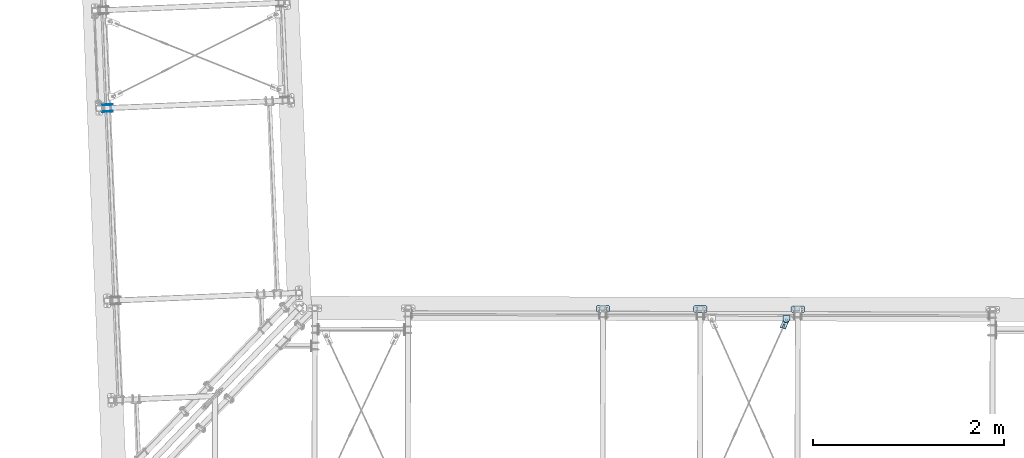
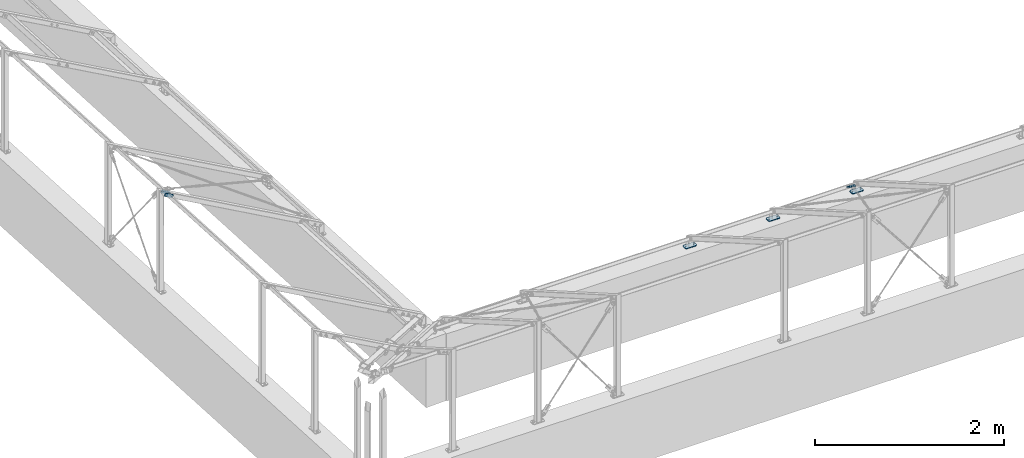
# One storey, part 36 of 288: 7 plates, 38 openings.
"""IFC2X3 building model written with IfcOpenShell, lengths in millimetres."""

from ifc_helpers import new_model, entity, si_unit, converted_unit, point, frame, frame_2d, origin, origin_with_axes, origin_2d_with_axis, place, context, project, spatial, polyline, circle_curve, line_curve, trimmed, segment, composite_curve, circle, outline, extrude, material, layer, layer_set, element, save


model = new_model("IFC2X3")

# Units and contexts
model_context = context("Model", 3, precision=1e-09, world=origin_with_axes())
ifc_project = project(units=[si_unit("LENGTHUNIT", "METRE", prefix="MILLI"), si_unit("AREAUNIT", "SQUARE_METRE"), si_unit("VOLUMEUNIT", "CUBIC_METRE"), converted_unit("PLANEANGLEUNIT", "DEGREE", entity("IfcPlaneAngleMeasure", 0.01745329), si_unit("PLANEANGLEUNIT", "RADIAN"), dimensions=[0, 0, 0, 0, 0, 0, 0])], contexts=[model_context])

# Site, building, storey
site_placement = place(None, origin_with_axes())
site = spatial("IfcSite", under=ifc_project, at=site_placement, Name="Remont ?wietlik?w nad MC w NCPP w Opolu", CompositionType="ELEMENT")
building_placement = place(site_placement, origin_with_axes())
building = spatial("IfcBuilding", under=site, at=building_placement, Name="Konstrukcja 1", CompositionType="ELEMENT")
storey_placement = place(building_placement, origin_with_axes())
storey = spatial("IfcBuildingStorey", under=building, at=storey_placement, Name="Default Storey", CompositionType="ELEMENT", Elevation=0.0)

# Plate, openings
ifc_material = material(Name="S235")
ifc_layer_1 = layer(ifc_material, 8.0)
ifc_layer_set_1 = layer_set([ifc_layer_1], Name="S235")
plate_1_placement = place(None, frame((-267.392016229, 4001.536621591, 1232.680042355), z_axis=(-0.041662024, 0.999131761, 1.7472e-05), x_axis=(0.499566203, 0.020815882, 0.866025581)))
plate_1 = element("IfcPlate", 1, at=plate_1_placement, inside=storey, material=ifc_layer_set_1, Name="-", ObjectType="-", context=model_context, shape_type="SweptSolid", body=[
    extrude(outline(polyline([(0.0, 0.0), (40.0, 0.0), (40.0, 120.0), (0.0, 120.0), (0.0, 0.0)])), origin_with_axes(), (0.0, 0.0, 1.0), 8.0),
])
opening_1_placement = place(plate_1_placement, frame((0.0, 0.0, -0.01), z_axis=(0.0, 0.0, 1.0), x_axis=(1.0, 0.0, 0.0)))
element("IfcOpeningElement", 2, at=opening_1_placement, cuts=plate_1, ObjectType="Opening", context=model_context, shape_type="SweptSolid", body=[
    extrude(outline(composite_curve([segment(trimmed(line_curve((40.0, 0.0), (0.0, 1.0), 10.0), [point((40.0, 0.0))], [point((40.0, 10.0))], True, "CARTESIAN"), True, "CONTINUOUS"), segment(trimmed(circle_curve(frame_2d((30.0, 10.0), x_axis=(-1.0, 0.0)), 10.0), [point((40.0, 10.0))], [point((30.0, 0.0))], False, "CARTESIAN"), True, "CONTINUOUS"), segment(trimmed(line_curve((30.0, 0.0), (1.0, 0.0), 10.0), [point((30.0, 0.0))], [point((40.0, 0.0))], True, "CARTESIAN"), True, "CONTINUOUS")], self_intersect=False)), origin(), (0.0, 0.0, 1.0), 8.02),
])
opening_2_placement = place(plate_1_placement, frame((0.0, 0.0, -0.01), z_axis=(0.0, 0.0, 1.0), x_axis=(1.0, 0.0, 0.0)))
element("IfcOpeningElement", 3, at=opening_2_placement, cuts=plate_1, ObjectType="Opening", context=model_context, shape_type="SweptSolid", body=[
    extrude(outline(composite_curve([segment(trimmed(line_curve((0.0, 0.0), (1.0, 0.0), 10.0), [point((0.0, 0.0))], [point((10.0, 0.0))], True, "CARTESIAN"), True, "CONTINUOUS"), segment(trimmed(circle_curve(frame_2d((10.0, 10.0), x_axis=(-1.0, 0.0)), 10.0), [point((10.0, 0.0))], [point((0.0, 10.0))], False, "CARTESIAN"), True, "CONTINUOUS"), segment(trimmed(line_curve((0.0, 10.0), (0.0, -1.0), 10.0), [point((0.0, 10.0))], [point((0.0, 0.0))], True, "CARTESIAN"), True, "CONTINUOUS")], self_intersect=False)), origin(), (0.0, 0.0, 1.0), 8.02),
])
opening_3_placement = place(plate_1_placement, frame((0.0, 0.0, -0.01), z_axis=(0.0, 0.0, 1.0), x_axis=(1.0, 0.0, 0.0)))
element("IfcOpeningElement", 4, at=opening_3_placement, cuts=plate_1, ObjectType="Opening", context=model_context, shape_type="SweptSolid", body=[
    extrude(outline(composite_curve([segment(trimmed(line_curve((40.0, 120.0), (-1.0, 0.0), 10.0), [point((40.0, 120.0))], [point((30.0, 120.0))], True, "CARTESIAN"), True, "CONTINUOUS"), segment(trimmed(circle_curve(frame_2d((30.0, 110.0), x_axis=(-1.0, 0.0)), 10.0), [point((30.0, 120.0))], [point((40.0, 110.0))], False, "CARTESIAN"), True, "CONTINUOUS"), segment(trimmed(line_curve((40.0, 110.0), (0.0, 1.0), 10.0), [point((40.0, 110.0))], [point((40.0, 120.0))], True, "CARTESIAN"), True, "CONTINUOUS")], self_intersect=False)), origin(), (0.0, 0.0, 1.0), 8.02),
])
opening_4_placement = place(plate_1_placement, frame((0.0, 0.0, -0.01), z_axis=(0.0, 0.0, 1.0), x_axis=(1.0, 0.0, 0.0)))
element("IfcOpeningElement", 5, at=opening_4_placement, cuts=plate_1, ObjectType="Opening", context=model_context, shape_type="SweptSolid", body=[
    extrude(outline(composite_curve([segment(trimmed(line_curve((0.0, 120.0), (0.0, -1.0), 10.0), [point((0.0, 120.0))], [point((0.0, 110.0))], True, "CARTESIAN"), True, "CONTINUOUS"), segment(trimmed(circle_curve(frame_2d((10.0, 110.0), x_axis=(-1.0, 0.0)), 10.0), [point((0.0, 110.0))], [point((10.0, 120.0))], False, "CARTESIAN"), True, "CONTINUOUS"), segment(trimmed(line_curve((10.0, 120.0), (-1.0, 0.0), 10.0), [point((10.0, 120.0))], [point((0.0, 120.0))], True, "CARTESIAN"), True, "CONTINUOUS")], self_intersect=False)), origin(), (0.0, 0.0, 1.0), 8.02),
])
opening_5_placement = place(plate_1_placement, frame((12.999, 20.0, 8.5), z_axis=(0.0, 0.0, 1.0), x_axis=(1.0, 0.0, 0.0)))
element("IfcOpeningElement", 6, at=opening_5_placement, cuts=plate_1, ObjectType="Opening", context=model_context, shape_type="SweptSolid", body=[
    extrude(circle(Radius=7.001, at=frame_2d((7.001, 0.0), x_axis=(1.0, 0.0))), origin(), (0.0, 0.0, -1.0), 9.0),
])
opening_6_placement = place(plate_1_placement, frame((12.999, 100.0, 8.5), z_axis=(0.0, 0.0, 1.0), x_axis=(1.0, 0.0, 0.0)))
element("IfcOpeningElement", 7, at=opening_6_placement, cuts=plate_1, ObjectType="Opening", context=model_context, shape_type="SweptSolid", body=[
    extrude(circle(Radius=7.001, at=frame_2d((7.001, 0.0), x_axis=(1.0, 0.0))), origin(), (0.0, 0.0, -1.0), 9.0),
])

plate_2_placement = place(None, frame((-264.475674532, 3931.597398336, 1232.67881934), z_axis=(-0.041662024, 0.999131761, 1.7472e-05), x_axis=(0.499566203, 0.020815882, 0.866025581)))
plate_2 = element("IfcPlate", 8, at=plate_2_placement, inside=storey, material=ifc_layer_set_1, Name="-", ObjectType="-", context=model_context, shape_type="SweptSolid", body=[
    extrude(outline(polyline([(0.0, 0.0), (40.0, 0.0), (40.0, 120.0), (0.0, 120.0), (0.0, 0.0)])), origin_with_axes(), (0.0, 0.0, 1.0), 8.0),
])
opening_7_placement = place(plate_2_placement, frame((0.0, 0.0, -0.01), z_axis=(0.0, 0.0, 1.0), x_axis=(1.0, 0.0, 0.0)))
element("IfcOpeningElement", 9, at=opening_7_placement, cuts=plate_2, ObjectType="Opening", context=model_context, shape_type="SweptSolid", body=[
    extrude(outline(composite_curve([segment(trimmed(line_curve((40.0, 0.0), (0.0, 1.0), 10.0), [point((40.0, 0.0))], [point((40.0, 10.0))], True, "CARTESIAN"), True, "CONTINUOUS"), segment(trimmed(circle_curve(frame_2d((30.0, 10.0), x_axis=(-1.0, 0.0)), 10.0), [point((40.0, 10.0))], [point((30.0, 0.0))], False, "CARTESIAN"), True, "CONTINUOUS"), segment(trimmed(line_curve((30.0, 0.0), (1.0, 0.0), 10.0), [point((30.0, 0.0))], [point((40.0, 0.0))], True, "CARTESIAN"), True, "CONTINUOUS")], self_intersect=False)), origin(), (0.0, 0.0, 1.0), 8.02),
])
opening_8_placement = place(plate_2_placement, frame((0.0, 0.0, -0.01), z_axis=(0.0, 0.0, 1.0), x_axis=(1.0, 0.0, 0.0)))
element("IfcOpeningElement", 10, at=opening_8_placement, cuts=plate_2, ObjectType="Opening", context=model_context, shape_type="SweptSolid", body=[
    extrude(outline(composite_curve([segment(trimmed(line_curve((0.0, 0.0), (1.0, 0.0), 10.0), [point((0.0, 0.0))], [point((10.0, 0.0))], True, "CARTESIAN"), True, "CONTINUOUS"), segment(trimmed(circle_curve(frame_2d((10.0, 10.0), x_axis=(-1.0, 0.0)), 10.0), [point((10.0, 0.0))], [point((0.0, 10.0))], False, "CARTESIAN"), True, "CONTINUOUS"), segment(trimmed(line_curve((0.0, 10.0), (0.0, -1.0), 10.0), [point((0.0, 10.0))], [point((0.0, 0.0))], True, "CARTESIAN"), True, "CONTINUOUS")], self_intersect=False)), origin(), (0.0, 0.0, 1.0), 8.02),
])
opening_9_placement = place(plate_2_placement, frame((0.0, 0.0, -0.01), z_axis=(0.0, 0.0, 1.0), x_axis=(1.0, 0.0, 0.0)))
element("IfcOpeningElement", 11, at=opening_9_placement, cuts=plate_2, ObjectType="Opening", context=model_context, shape_type="SweptSolid", body=[
    extrude(outline(composite_curve([segment(trimmed(line_curve((40.0, 120.0), (-1.0, 0.0), 10.0), [point((40.0, 120.0))], [point((30.0, 120.0))], True, "CARTESIAN"), True, "CONTINUOUS"), segment(trimmed(circle_curve(frame_2d((30.0, 110.0), x_axis=(-1.0, 0.0)), 10.0), [point((30.0, 120.0))], [point((40.0, 110.0))], False, "CARTESIAN"), True, "CONTINUOUS"), segment(trimmed(line_curve((40.0, 110.0), (0.0, 1.0), 10.0), [point((40.0, 110.0))], [point((40.0, 120.0))], True, "CARTESIAN"), True, "CONTINUOUS")], self_intersect=False)), origin(), (0.0, 0.0, 1.0), 8.02),
])
opening_10_placement = place(plate_2_placement, frame((0.0, 0.0, -0.01), z_axis=(0.0, 0.0, 1.0), x_axis=(1.0, 0.0, 0.0)))
element("IfcOpeningElement", 12, at=opening_10_placement, cuts=plate_2, ObjectType="Opening", context=model_context, shape_type="SweptSolid", body=[
    extrude(outline(composite_curve([segment(trimmed(line_curve((0.0, 120.0), (0.0, -1.0), 10.0), [point((0.0, 120.0))], [point((0.0, 110.0))], True, "CARTESIAN"), True, "CONTINUOUS"), segment(trimmed(circle_curve(frame_2d((10.0, 110.0), x_axis=(-1.0, 0.0)), 10.0), [point((0.0, 110.0))], [point((10.0, 120.0))], False, "CARTESIAN"), True, "CONTINUOUS"), segment(trimmed(line_curve((10.0, 120.0), (-1.0, 0.0), 10.0), [point((10.0, 120.0))], [point((0.0, 120.0))], True, "CARTESIAN"), True, "CONTINUOUS")], self_intersect=False)), origin(), (0.0, 0.0, 1.0), 8.02),
])
opening_11_placement = place(plate_2_placement, frame((12.999, 20.0, 8.5), z_axis=(0.0, 0.0, 1.0), x_axis=(1.0, 0.0, 0.0)))
element("IfcOpeningElement", 13, at=opening_11_placement, cuts=plate_2, ObjectType="Opening", context=model_context, shape_type="SweptSolid", body=[
    extrude(circle(Radius=7.001, at=frame_2d((7.001, 0.0), x_axis=(1.0, 0.0))), origin(), (0.0, 0.0, -1.0), 9.0),
])
opening_12_placement = place(plate_2_placement, frame((12.999, 100.0, 8.5), z_axis=(0.0, 0.0, 1.0), x_axis=(1.0, 0.0, 0.0)))
element("IfcOpeningElement", 14, at=opening_12_placement, cuts=plate_2, ObjectType="Opening", context=model_context, shape_type="SweptSolid", body=[
    extrude(circle(Radius=7.001, at=frame_2d((7.001, 0.0), x_axis=(1.0, 0.0))), origin(), (0.0, 0.0, -1.0), 9.0),
])

ifc_layer_2 = layer(ifc_material, 10.0)
ifc_layer_set_2 = layer_set([ifc_layer_2], Name="S235")
plate_3_placement = place(None, frame((7090.900781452, 1903.774662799, 10.000000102), z_axis=(0.0, 0.0, -1.0), x_axis=(-0.002261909, -0.999997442, 0.0)))
plate_3 = element("IfcPlate", 15, at=plate_3_placement, inside=storey, material=ifc_layer_set_2, Name="Baseplate", ObjectType="Baseplate", context=model_context, shape_type="SweptSolid", body=[
    extrude(outline(polyline([(0.0, 0.0), (70.0, 0.0), (70.0, 140.0), (0.0, 140.0), (0.0, 0.0)])), origin_with_axes(), (0.0, 0.0, 1.0), 10.0),
])
opening_13_placement = place(plate_3_placement, frame((0.0, 0.0, -0.01), z_axis=(0.0, 0.0, 1.0), x_axis=(1.0, 0.0, 0.0)))
element("IfcOpeningElement", 16, at=opening_13_placement, cuts=plate_3, ObjectType="Opening", context=model_context, shape_type="SweptSolid", body=[
    extrude(outline(composite_curve([segment(trimmed(line_curve((0.0, 140.0), (0.0, -1.0), 10.0), [point((0.0, 140.0))], [point((0.0, 130.0))], True, "CARTESIAN"), True, "CONTINUOUS"), segment(trimmed(circle_curve(frame_2d((10.0, 130.0), x_axis=(-1.0, 0.0)), 10.0), [point((0.0, 130.0))], [point((10.0, 140.0))], False, "CARTESIAN"), True, "CONTINUOUS"), segment(trimmed(line_curve((10.0, 140.0), (-1.0, 0.0), 10.0), [point((10.0, 140.0))], [point((0.0, 140.0))], True, "CARTESIAN"), True, "CONTINUOUS")], self_intersect=False)), origin(), (0.0, 0.0, 1.0), 10.02),
])
opening_14_placement = place(plate_3_placement, frame((0.0, 0.0, -0.01), z_axis=(0.0, 0.0, 1.0), x_axis=(1.0, 0.0, 0.0)))
element("IfcOpeningElement", 17, at=opening_14_placement, cuts=plate_3, ObjectType="Opening", context=model_context, shape_type="SweptSolid", body=[
    extrude(outline(composite_curve([segment(trimmed(line_curve((70.0, 140.0), (-1.0, 0.0), 10.0), [point((70.0, 140.0))], [point((60.0, 140.0))], True, "CARTESIAN"), True, "CONTINUOUS"), segment(trimmed(circle_curve(frame_2d((60.0, 130.0), x_axis=(-1.0, 0.0)), 10.0), [point((60.0, 140.0))], [point((70.0, 130.0))], False, "CARTESIAN"), True, "CONTINUOUS"), segment(trimmed(line_curve((70.0, 130.0), (0.0, 1.0), 10.0), [point((70.0, 130.0))], [point((70.0, 140.0))], True, "CARTESIAN"), True, "CONTINUOUS")], self_intersect=False)), origin(), (0.0, 0.0, 1.0), 10.02),
])
opening_15_placement = place(plate_3_placement, frame((0.0, 0.0, -0.01), z_axis=(0.0, 0.0, 1.0), x_axis=(1.0, 0.0, 0.0)))
element("IfcOpeningElement", 18, at=opening_15_placement, cuts=plate_3, ObjectType="Opening", context=model_context, shape_type="SweptSolid", body=[
    extrude(outline(composite_curve([segment(trimmed(line_curve((0.0, 0.0), (1.0, 0.0), 10.0), [point((0.0, 0.0))], [point((10.0, 0.0))], True, "CARTESIAN"), True, "CONTINUOUS"), segment(trimmed(circle_curve(frame_2d((10.0, 10.0), x_axis=(-1.0, 0.0)), 10.0), [point((10.0, 0.0))], [point((0.0, 10.0))], False, "CARTESIAN"), True, "CONTINUOUS"), segment(trimmed(line_curve((0.0, 10.0), (0.0, -1.0), 10.0), [point((0.0, 10.0))], [point((0.0, 0.0))], True, "CARTESIAN"), True, "CONTINUOUS")], self_intersect=False)), origin(), (0.0, 0.0, 1.0), 10.02),
])
opening_16_placement = place(plate_3_placement, frame((0.0, 0.0, -0.01), z_axis=(0.0, 0.0, 1.0), x_axis=(1.0, 0.0, 0.0)))
element("IfcOpeningElement", 19, at=opening_16_placement, cuts=plate_3, ObjectType="Opening", context=model_context, shape_type="SweptSolid", body=[
    extrude(outline(composite_curve([segment(trimmed(line_curve((70.0, 0.0), (0.0, 1.0), 10.0), [point((70.0, 0.0))], [point((70.0, 10.0))], True, "CARTESIAN"), True, "CONTINUOUS"), segment(trimmed(circle_curve(frame_2d((60.0, 10.0), x_axis=(-1.0, 0.0)), 10.0), [point((70.0, 10.0))], [point((60.0, 0.0))], False, "CARTESIAN"), True, "CONTINUOUS"), segment(trimmed(line_curve((60.0, 0.0), (1.0, 0.0), 10.0), [point((60.0, 0.0))], [point((70.0, 0.0))], True, "CARTESIAN"), True, "CONTINUOUS")], self_intersect=False)), origin(), (0.0, 0.0, 1.0), 10.02),
])
opening_17_placement = place(plate_3_placement, frame((35.0, 20.0, 10.5), z_axis=(0.0, 0.0, -1.0), x_axis=(1.0, 0.0, 0.0)))
element("IfcOpeningElement", 20, at=opening_17_placement, cuts=plate_3, ObjectType="Opening", context=model_context, shape_type="SweptSolid", body=[
    extrude(circle(Radius=6.001, at=origin_2d_with_axis()), origin(), (0.0, 0.0, 1.0), 11.0),
])
opening_18_placement = place(plate_3_placement, frame((35.0, 120.0, 10.5), z_axis=(0.0, 0.0, -1.0), x_axis=(1.0, 0.0, 0.0)))
element("IfcOpeningElement", 21, at=opening_18_placement, cuts=plate_3, ObjectType="Opening", context=model_context, shape_type="SweptSolid", body=[
    extrude(circle(Radius=6.001, at=origin_2d_with_axis()), origin(), (0.0, 0.0, 1.0), 11.0),
])

plate_4_placement = place(None, frame((6071.446232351, 1906.072934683, 10.000000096), z_axis=(0.0, 0.0, -1.0), x_axis=(-0.002261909, -0.999997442, 0.0)))
plate_4 = element("IfcPlate", 22, at=plate_4_placement, inside=storey, material=ifc_layer_set_2, Name="Baseplate", ObjectType="Baseplate", context=model_context, shape_type="SweptSolid", body=[
    extrude(outline(polyline([(0.0, 0.0), (70.0, 0.0), (70.0, 140.0), (0.0, 140.0), (0.0, 0.0)])), origin_with_axes(), (0.0, 0.0, 1.0), 10.0),
])
opening_19_placement = place(plate_4_placement, frame((0.0, 0.0, -0.01), z_axis=(0.0, 0.0, 1.0), x_axis=(1.0, 0.0, 0.0)))
element("IfcOpeningElement", 23, at=opening_19_placement, cuts=plate_4, ObjectType="Opening", context=model_context, shape_type="SweptSolid", body=[
    extrude(outline(composite_curve([segment(trimmed(line_curve((0.0, 140.0), (0.0, -1.0), 10.0), [point((0.0, 140.0))], [point((0.0, 130.0))], True, "CARTESIAN"), True, "CONTINUOUS"), segment(trimmed(circle_curve(frame_2d((10.0, 130.0), x_axis=(-1.0, 0.0)), 10.0), [point((0.0, 130.0))], [point((10.0, 140.0))], False, "CARTESIAN"), True, "CONTINUOUS"), segment(trimmed(line_curve((10.0, 140.0), (-1.0, 0.0), 10.0), [point((10.0, 140.0))], [point((0.0, 140.0))], True, "CARTESIAN"), True, "CONTINUOUS")], self_intersect=False)), origin(), (0.0, 0.0, 1.0), 10.02),
])
opening_20_placement = place(plate_4_placement, frame((0.0, 0.0, -0.01), z_axis=(0.0, 0.0, 1.0), x_axis=(1.0, 0.0, 0.0)))
element("IfcOpeningElement", 24, at=opening_20_placement, cuts=plate_4, ObjectType="Opening", context=model_context, shape_type="SweptSolid", body=[
    extrude(outline(composite_curve([segment(trimmed(line_curve((70.0, 140.0), (-1.0, 0.0), 10.0), [point((70.0, 140.0))], [point((60.0, 140.0))], True, "CARTESIAN"), True, "CONTINUOUS"), segment(trimmed(circle_curve(frame_2d((60.0, 130.0), x_axis=(-1.0, 0.0)), 10.0), [point((60.0, 140.0))], [point((70.0, 130.0))], False, "CARTESIAN"), True, "CONTINUOUS"), segment(trimmed(line_curve((70.0, 130.0), (0.0, 1.0), 10.0), [point((70.0, 130.0))], [point((70.0, 140.0))], True, "CARTESIAN"), True, "CONTINUOUS")], self_intersect=False)), origin(), (0.0, 0.0, 1.0), 10.02),
])
opening_21_placement = place(plate_4_placement, frame((0.0, 0.0, -0.01), z_axis=(0.0, 0.0, 1.0), x_axis=(1.0, 0.0, 0.0)))
element("IfcOpeningElement", 25, at=opening_21_placement, cuts=plate_4, ObjectType="Opening", context=model_context, shape_type="SweptSolid", body=[
    extrude(outline(composite_curve([segment(trimmed(line_curve((0.0, 0.0), (1.0, 0.0), 10.0), [point((0.0, 0.0))], [point((10.0, 0.0))], True, "CARTESIAN"), True, "CONTINUOUS"), segment(trimmed(circle_curve(frame_2d((10.0, 10.0), x_axis=(-1.0, 0.0)), 10.0), [point((10.0, 0.0))], [point((0.0, 10.0))], False, "CARTESIAN"), True, "CONTINUOUS"), segment(trimmed(line_curve((0.0, 10.0), (0.0, -1.0), 10.0), [point((0.0, 10.0))], [point((0.0, 0.0))], True, "CARTESIAN"), True, "CONTINUOUS")], self_intersect=False)), origin(), (0.0, 0.0, 1.0), 10.02),
])
opening_22_placement = place(plate_4_placement, frame((0.0, 0.0, -0.01), z_axis=(0.0, 0.0, 1.0), x_axis=(1.0, 0.0, 0.0)))
element("IfcOpeningElement", 26, at=opening_22_placement, cuts=plate_4, ObjectType="Opening", context=model_context, shape_type="SweptSolid", body=[
    extrude(outline(composite_curve([segment(trimmed(line_curve((70.0, 0.0), (0.0, 1.0), 10.0), [point((70.0, 0.0))], [point((70.0, 10.0))], True, "CARTESIAN"), True, "CONTINUOUS"), segment(trimmed(circle_curve(frame_2d((60.0, 10.0), x_axis=(-1.0, 0.0)), 10.0), [point((70.0, 10.0))], [point((60.0, 0.0))], False, "CARTESIAN"), True, "CONTINUOUS"), segment(trimmed(line_curve((60.0, 0.0), (1.0, 0.0), 10.0), [point((60.0, 0.0))], [point((70.0, 0.0))], True, "CARTESIAN"), True, "CONTINUOUS")], self_intersect=False)), origin(), (0.0, 0.0, 1.0), 10.02),
])
opening_23_placement = place(plate_4_placement, frame((35.0, 120.0, 10.5), z_axis=(0.0, 0.0, -1.0), x_axis=(1.0, 0.0, 0.0)))
element("IfcOpeningElement", 27, at=opening_23_placement, cuts=plate_4, ObjectType="Opening", context=model_context, shape_type="SweptSolid", body=[
    extrude(circle(Radius=6.001, at=origin_2d_with_axis()), origin(), (0.0, 0.0, 1.0), 11.0),
])
opening_24_placement = place(plate_4_placement, frame((35.0, 20.0, 10.5), z_axis=(0.0, 0.0, -1.0), x_axis=(1.0, 0.0, 0.0)))
element("IfcOpeningElement", 28, at=opening_24_placement, cuts=plate_4, ObjectType="Opening", context=model_context, shape_type="SweptSolid", body=[
    extrude(circle(Radius=6.001, at=origin_2d_with_axis()), origin(), (0.0, 0.0, 1.0), 11.0),
])

plate_5_placement = place(None, frame((4911.832847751, 1838.703350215, 10.000000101), z_axis=(0.0, 0.0, -1.0), x_axis=(0.002261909, 0.999997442, 0.0)))
plate_5 = element("IfcPlate", 29, at=plate_5_placement, inside=storey, material=ifc_layer_set_2, Name="Baseplate", ObjectType="Baseplate", context=model_context, shape_type="SweptSolid", body=[
    extrude(outline(polyline([(0.0, 0.0), (70.0, 0.0), (70.0, 140.0), (0.0, 140.0), (0.0, 0.0)])), origin_with_axes(), (0.0, 0.0, 1.0), 10.0),
])
opening_25_placement = place(plate_5_placement, frame((0.0, 0.0, -0.01), z_axis=(0.0, 0.0, 1.0), x_axis=(1.0, 0.0, 0.0)))
element("IfcOpeningElement", 30, at=opening_25_placement, cuts=plate_5, ObjectType="Opening", context=model_context, shape_type="SweptSolid", body=[
    extrude(outline(composite_curve([segment(trimmed(line_curve((0.0, 140.0), (0.0, -1.0), 10.0), [point((0.0, 140.0))], [point((0.0, 130.0))], True, "CARTESIAN"), True, "CONTINUOUS"), segment(trimmed(circle_curve(frame_2d((10.0, 130.0), x_axis=(-1.0, 0.0)), 10.0), [point((0.0, 130.0))], [point((10.0, 140.0))], False, "CARTESIAN"), True, "CONTINUOUS"), segment(trimmed(line_curve((10.0, 140.0), (-1.0, 0.0), 10.0), [point((10.0, 140.0))], [point((0.0, 140.0))], True, "CARTESIAN"), True, "CONTINUOUS")], self_intersect=False)), origin(), (0.0, 0.0, 1.0), 10.02),
])
opening_26_placement = place(plate_5_placement, frame((0.0, 0.0, -0.01), z_axis=(0.0, 0.0, 1.0), x_axis=(1.0, 0.0, 0.0)))
element("IfcOpeningElement", 31, at=opening_26_placement, cuts=plate_5, ObjectType="Opening", context=model_context, shape_type="SweptSolid", body=[
    extrude(outline(composite_curve([segment(trimmed(line_curve((70.0, 140.0), (-1.0, 0.0), 10.0), [point((70.0, 140.0))], [point((60.0, 140.0))], True, "CARTESIAN"), True, "CONTINUOUS"), segment(trimmed(circle_curve(frame_2d((60.0, 130.0), x_axis=(-1.0, 0.0)), 10.0), [point((60.0, 140.0))], [point((70.0, 130.0))], False, "CARTESIAN"), True, "CONTINUOUS"), segment(trimmed(line_curve((70.0, 130.0), (0.0, 1.0), 10.0), [point((70.0, 130.0))], [point((70.0, 140.0))], True, "CARTESIAN"), True, "CONTINUOUS")], self_intersect=False)), origin(), (0.0, 0.0, 1.0), 10.02),
])
opening_27_placement = place(plate_5_placement, frame((0.0, 0.0, -0.01), z_axis=(0.0, 0.0, 1.0), x_axis=(1.0, 0.0, 0.0)))
element("IfcOpeningElement", 32, at=opening_27_placement, cuts=plate_5, ObjectType="Opening", context=model_context, shape_type="SweptSolid", body=[
    extrude(outline(composite_curve([segment(trimmed(line_curve((0.0, 0.0), (1.0, 0.0), 10.0), [point((0.0, 0.0))], [point((10.0, 0.0))], True, "CARTESIAN"), True, "CONTINUOUS"), segment(trimmed(circle_curve(frame_2d((10.0, 10.0), x_axis=(-1.0, 0.0)), 10.0), [point((10.0, 0.0))], [point((0.0, 10.0))], False, "CARTESIAN"), True, "CONTINUOUS"), segment(trimmed(line_curve((0.0, 10.0), (0.0, -1.0), 10.0), [point((0.0, 10.0))], [point((0.0, 0.0))], True, "CARTESIAN"), True, "CONTINUOUS")], self_intersect=False)), origin(), (0.0, 0.0, 1.0), 10.02),
])
opening_28_placement = place(plate_5_placement, frame((0.0, 0.0, -0.01), z_axis=(0.0, 0.0, 1.0), x_axis=(1.0, 0.0, 0.0)))
element("IfcOpeningElement", 33, at=opening_28_placement, cuts=plate_5, ObjectType="Opening", context=model_context, shape_type="SweptSolid", body=[
    extrude(outline(composite_curve([segment(trimmed(line_curve((70.0, 0.0), (0.0, 1.0), 10.0), [point((70.0, 0.0))], [point((70.0, 10.0))], True, "CARTESIAN"), True, "CONTINUOUS"), segment(trimmed(circle_curve(frame_2d((60.0, 10.0), x_axis=(-1.0, 0.0)), 10.0), [point((70.0, 10.0))], [point((60.0, 0.0))], False, "CARTESIAN"), True, "CONTINUOUS"), segment(trimmed(line_curve((60.0, 0.0), (1.0, 0.0), 10.0), [point((60.0, 0.0))], [point((70.0, 0.0))], True, "CARTESIAN"), True, "CONTINUOUS")], self_intersect=False)), origin(), (0.0, 0.0, 1.0), 10.02),
])
opening_29_placement = place(plate_5_placement, frame((35.0, 120.0, 10.5), z_axis=(0.0, 0.0, -1.0), x_axis=(1.0, 0.0, 0.0)))
element("IfcOpeningElement", 34, at=opening_29_placement, cuts=plate_5, ObjectType="Opening", context=model_context, shape_type="SweptSolid", body=[
    extrude(circle(Radius=6.001, at=origin_2d_with_axis()), origin(), (0.0, 0.0, 1.0), 11.0),
])
opening_30_placement = place(plate_5_placement, frame((35.0, 20.0, 10.5), z_axis=(0.0, 0.0, -1.0), x_axis=(1.0, 0.0, 0.0)))
element("IfcOpeningElement", 35, at=opening_30_placement, cuts=plate_5, ObjectType="Opening", context=model_context, shape_type="SweptSolid", body=[
    extrude(circle(Radius=6.001, at=origin_2d_with_axis()), origin(), (0.0, 0.0, 1.0), 11.0),
])

plate_6_placement = place(None, frame((6889.905817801, 1661.619714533, 243.386541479), z_axis=(-0.001127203, -0.499998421, -0.866025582), x_axis=(-0.931267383, 0.316048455, -0.181257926)))
plate_6 = element("IfcPlate", 36, at=plate_6_placement, inside=storey, material=ifc_layer_set_1, Name="Tab_Plate#2", ObjectType="Tab_Plate#2", context=model_context, shape_type="SweptSolid", body=[
    extrude(outline(polyline([(0.0, 0.0), (60.0, 0.0), (60.0, 140.0), (0.0, 140.0), (0.0, 0.0)])), origin_with_axes(), (0.0, 0.0, 1.0), 8.0),
])
opening_31_placement = place(plate_6_placement, frame((0.0, 0.0, -0.01), z_axis=(0.0, 0.0, 1.0), x_axis=(1.0, 0.0, 0.0)))
element("IfcOpeningElement", 37, at=opening_31_placement, cuts=plate_6, ObjectType="Opening", context=model_context, shape_type="SweptSolid", body=[
    extrude(outline(composite_curve([segment(trimmed(line_curve((60.0, 140.0), (-1.0, 0.0), 30.0), [point((60.0, 140.0))], [point((30.0, 140.0))], True, "CARTESIAN"), True, "CONTINUOUS"), segment(trimmed(circle_curve(frame_2d((30.0, 110.0), x_axis=(-1.0, 0.0)), 30.0), [point((30.0, 140.0))], [point((60.0, 110.0))], False, "CARTESIAN"), True, "CONTINUOUS"), segment(trimmed(line_curve((60.0, 110.0), (0.0, 1.0), 30.0), [point((60.0, 110.0))], [point((60.0, 140.0))], True, "CARTESIAN"), True, "CONTINUOUS")], self_intersect=False)), origin(), (0.0, 0.0, 1.0), 8.02),
])
opening_32_placement = place(plate_6_placement, frame((0.0, 0.0, -0.01), z_axis=(0.0, 0.0, 1.0), x_axis=(1.0, 0.0, 0.0)))
element("IfcOpeningElement", 38, at=opening_32_placement, cuts=plate_6, ObjectType="Opening", context=model_context, shape_type="SweptSolid", body=[
    extrude(outline(composite_curve([segment(trimmed(line_curve((0.0, 140.0), (0.0, -1.0), 30.0), [point((0.0, 140.0))], [point((0.0, 110.0))], True, "CARTESIAN"), True, "CONTINUOUS"), segment(trimmed(circle_curve(frame_2d((30.0, 110.0), x_axis=(-1.0, 0.0)), 30.0), [point((0.0, 110.0))], [point((30.0, 140.0))], False, "CARTESIAN"), True, "CONTINUOUS"), segment(trimmed(line_curve((30.0, 140.0), (-1.0, 0.0), 30.0), [point((30.0, 140.0))], [point((0.0, 140.0))], True, "CARTESIAN"), True, "CONTINUOUS")], self_intersect=False)), origin(), (0.0, 0.0, 1.0), 8.02),
])
opening_33_placement = place(plate_6_placement, frame((0.0, 0.0, 8.1), z_axis=(0.0, 0.0, -1.0), x_axis=(0.931977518, -0.362516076, 0.0)))
element("IfcOpeningElement", 39, at=opening_33_placement, cuts=plate_6, ObjectType="Opening", context=model_context, shape_type="SweptSolid", body=[
    extrude(outline(polyline([(2.945868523, -55.869292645), (15.995417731, -60.945242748), (34.484462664, -13.412525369), (21.434913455, -8.336575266), (2.945868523, -55.869292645)])), origin(), (0.0, 0.0, 1.0), 8.2),
])
opening_34_placement = place(plate_6_placement, frame((30.0, 110.0, 8.5), z_axis=(0.0, 0.0, -1.0), x_axis=(0.0, -1.0, 0.0)))
element("IfcOpeningElement", 40, at=opening_34_placement, cuts=plate_6, ObjectType="Opening", context=model_context, shape_type="SweptSolid", body=[
    extrude(circle(Radius=9.001, at=origin_2d_with_axis()), origin(), (0.0, 0.0, 1.0), 9.0),
])

plate_7_placement = place(None, frame((6863.158517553, 1737.08641212, 181.375578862), z_axis=(0.001127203, 0.499998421, 0.866025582), x_axis=(0.931267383, -0.316048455, 0.181257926)))
plate_7 = element("IfcPlate", 41, at=plate_7_placement, inside=storey, material=ifc_layer_set_1, Name="Gusset#2", ObjectType="Gusset#2", context=model_context, shape_type="SweptSolid", body=[
    extrude(outline(polyline([(0.0, 0.0), (60.0, 0.0), (60.0, 60.0), (45.922042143, 96.193155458), (-26.464268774, 68.037239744), (0.0, 0.0)])), origin_with_axes(), (0.0, 0.0, 1.0), 8.0),
])
opening_35_placement = place(plate_7_placement, frame((30.0, 30.0, -0.5), z_axis=(0.0, 0.0, 1.0), x_axis=(0.0, -1.0, 0.0)))
element("IfcOpeningElement", 42, at=opening_35_placement, cuts=plate_7, ObjectType="Opening", context=model_context, shape_type="SweptSolid", body=[
    extrude(circle(Radius=9.001, at=origin_2d_with_axis()), origin(), (0.0, 0.0, 1.0), 9.0),
])
opening_36_placement = place(plate_7_placement, frame((0.0, 0.0, -0.01), z_axis=(0.0, 0.0, 1.0), x_axis=(1.0, 0.0, 0.0)))
element("IfcOpeningElement", 43, at=opening_36_placement, cuts=plate_7, ObjectType="Opening", context=model_context, shape_type="SweptSolid", body=[
    extrude(outline(composite_curve([segment(trimmed(line_curve((60.0, 0.0), (0.0, 1.0), 30.0), [point((60.0, 0.0))], [point((60.0, 30.0))], True, "CARTESIAN"), True, "CONTINUOUS"), segment(trimmed(circle_curve(frame_2d((30.0, 30.0), x_axis=(-1.0, 0.0)), 30.0), [point((60.0, 30.0))], [point((30.0, 0.0))], False, "CARTESIAN"), True, "CONTINUOUS"), segment(trimmed(line_curve((30.0, 0.0), (1.0, 0.0), 30.0), [point((30.0, 0.0))], [point((60.0, 0.0))], True, "CARTESIAN"), True, "CONTINUOUS")], self_intersect=False)), origin(), (0.0, 0.0, 1.0), 8.02),
])
opening_37_placement = place(plate_7_placement, frame((0.0, 0.0, -0.01), z_axis=(0.0, 0.0, 1.0), x_axis=(1.0, 0.0, 0.0)))
element("IfcOpeningElement", 44, at=opening_37_placement, cuts=plate_7, ObjectType="Opening", context=model_context, shape_type="SweptSolid", body=[
    extrude(outline(composite_curve([segment(trimmed(line_curve((0.0, 0.0), (1.0, 0.0), 20.520511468), [point((0.0, 0.0))], [point((20.520511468, 0.0))], True, "CARTESIAN"), True, "CONTINUOUS"), segment(trimmed(circle_curve(frame_2d((20.520511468, 30.0), x_axis=(-1.0, 0.0)), 30.0), [point((20.520511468, 0.0))], [point((-7.438887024, 19.124705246))], False, "CARTESIAN"), True, "CONTINUOUS"), segment(trimmed(line_curve((-7.438887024, 19.124705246), (0.362509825, -0.93197995), 20.520511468), [point((-7.438887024, 19.124705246))], [point((0.0, 0.0))], True, "CARTESIAN"), True, "CONTINUOUS")], self_intersect=False)), origin(), (0.0, 0.0, 1.0), 8.02),
])
opening_38_placement = place(plate_7_placement, frame((0.0, 0.0, -0.01), z_axis=(0.0, 0.0, 1.0), x_axis=(1.0, 0.0, 0.0)))
element("IfcOpeningElement", 45, at=opening_38_placement, cuts=plate_7, ObjectType="Opening", context=model_context, shape_type="SweptSolid", body=[
    extrude(outline(composite_curve([segment(trimmed(line_curve((60.0, 60.0), (-0.362509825, 0.93197995), 5.62909297), [point((60.0, 60.0))], [point((57.959398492, 65.246201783))], True, "CARTESIAN"), True, "CONTINUOUS"), segment(trimmed(circle_curve(frame_2d((30.0, 54.37090703), x_axis=(-1.0, 0.0)), 30.0), [point((57.959398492, 65.246201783))], [point((60.0, 54.37090703))], False, "CARTESIAN"), True, "CONTINUOUS"), segment(trimmed(line_curve((60.0, 54.37090703), (0.0, 1.0), 5.62909297), [point((60.0, 54.37090703))], [point((60.0, 60.0))], True, "CARTESIAN"), True, "CONTINUOUS")], self_intersect=False)), origin(), (0.0, 0.0, 1.0), 8.02),
])

save(model, "model.ifc")
